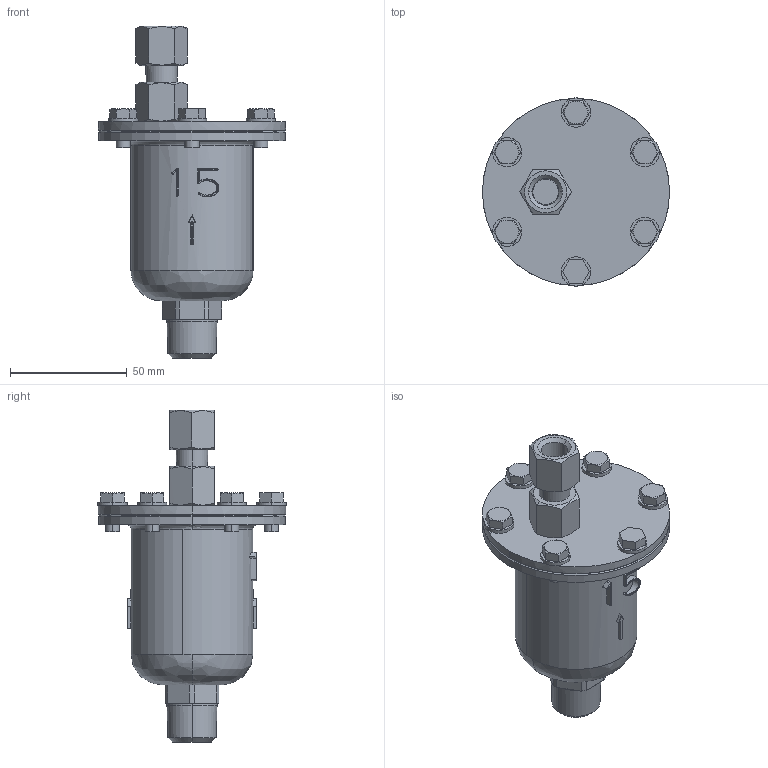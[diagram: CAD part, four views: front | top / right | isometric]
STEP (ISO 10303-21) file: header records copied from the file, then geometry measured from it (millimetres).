
FILE_DESCRIPTION( (''), '2;1');
FILE_NAME ('PC1056.968.TA-16CVS(15A)_30209.stp','2024-08-29T10:43:11',(''),(''),'spGate 19.8.4 (****-****-****-****)','','');
FILE_SCHEMA (('AUTOMOTIVE_DESIGN'));
Length unit declared in the file: millimetre
Bounding box: 80 x 80.5 x 142 mm (x, y, z)
Volume: 201873.6 mm3; surface area: 29972.7 mm2
Topology: 1 solids, 1 shells, 233 faces, 569 edges, 362 vertices
Faces by surface type: plane 114, cylinder 68, bspline 51
Entity records: 12736 total; most frequent: CARTESIAN_POINT 3190, ORIENTED_EDGE 1138, DIRECTION 904, COLOUR_RGB 803, PRESENTATION_STYLE_ASSIGNMENT 803, STYLED_ITEM 803, EDGE_CURVE 569, DRAUGHTING_PRE_DEFINED_CURVE_FONT 569
